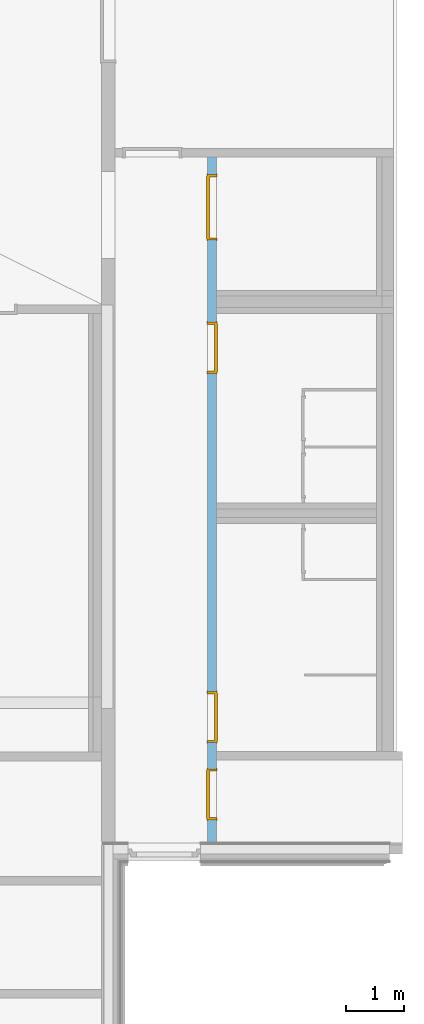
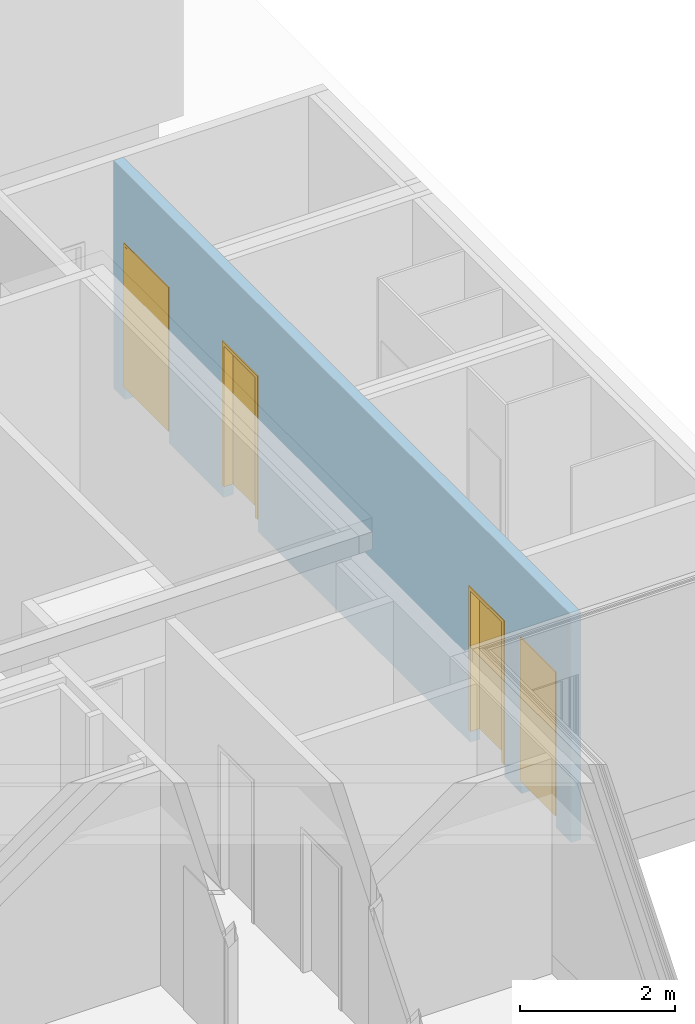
# One storey, part 13 of 23: 4 doors, 4 openings, plus 1 element that does not belong to this part.
"""IFC4 building model written with IfcOpenShell, lengths in metres."""

import ifcopenshell
import ifcopenshell.guid

model = None  # the IFC model being written
_history = None  # IfcOwnerHistory: only IFC2X3 demands one
_inside = {}  # id of a spatial element -> (the spatial element, [elements in it])
_under = {}  # id of a project, library or spatial element -> (it, [spatial elements below it])
_declared = {}  # id of a project -> (the project, [libraries it declares])
_typed = {}  # id of a type object -> (the type object, [elements of that type])
_made_of = {}  # id of a material, layer set ... -> (it, [elements and type objects made of it])


def new_model(schema):
    """Start an empty IFC model of exactly this schema.

    Asked for "IFC4X3", IfcOpenShell would pick the latest addendum, in which some entities
    have other attributes; the version numbers below select the first issue.
    IFC2X3 requires an IfcOwnerHistory on every rooted entity: one is made here for all.
    """
    global model, _history
    if schema == "IFC4X3":
        model = ifcopenshell.file(schema_version=(4, 3, 0, 0))
    else:
        model = ifcopenshell.file(schema=schema)
    _inside.clear()
    _under.clear()
    _declared.clear()
    _typed.clear()
    _made_of.clear()
    _history = None
    if model.schema == "IFC2X3":
        org = make("IfcOrganization", Name="unknown")
        user = make(
            "IfcPersonAndOrganization",
            ThePerson=make("IfcPerson", FamilyName="unknown"),
            TheOrganization=org,
        )
        app = make(
            "IfcApplication",
            ApplicationDeveloper=org,
            Version="unknown",
            ApplicationFullName="unknown",
            ApplicationIdentifier="unknown",
        )
        _history = make(
            "IfcOwnerHistory",
            OwningUser=user,
            OwningApplication=app,
            ChangeAction="ADDED",
            CreationDate=0,
        )
    return model


def make(cls, **values):
    """One entity of the class cls with the attributes given. An attribute that is None is left unset."""
    return model.create_entity(
        cls, **{name: value for name, value in values.items() if value is not None}
    )


def entity(cls, *values):
    """Any entity or typed value of the class cls, its attributes in the order of the schema. None: left unset."""
    e = model.create_entity(cls)
    for i, value in enumerate(values):
        if value is not None:
            e[i] = value
    return e


def rooted(cls, **values):
    """An entity with a GlobalId (a new one), such as an element, a storey or a relation."""
    return make(cls, GlobalId=ifcopenshell.guid.new(), OwnerHistory=_history, **values)


def si_unit(unit_type, name, prefix=None):
    """IfcSIUnit, for example si_unit("LENGTHUNIT", "METRE", prefix="MILLI")."""
    return make("IfcSIUnit", UnitType=unit_type, Prefix=prefix, Name=name)


def converted_unit(unit_type, name, factor, base, dimensions=None, offset=None):
    """IfcConversionBasedUnit, such as the inch: factor (a typed value) times the base unit."""
    return make(
        "IfcConversionBasedUnit"
        if offset is None
        else "IfcConversionBasedUnitWithOffset",
        ConversionOffset=offset,
        Dimensions=None
        if dimensions is None
        else entity("IfcDimensionalExponents", *dimensions),
        UnitType=unit_type,
        Name=name,
        ConversionFactor=make(
            "IfcMeasureWithUnit", ValueComponent=factor, UnitComponent=base
        ),
    )


def derived_unit(unit_type, elements):
    """IfcDerivedUnit: a product of units, each with its exponent."""
    return make(
        "IfcDerivedUnit",
        Elements=[
            make("IfcDerivedUnitElement", Unit=unit, Exponent=power)
            for unit, power in elements
        ],
        UnitType=unit_type,
    )


def assignment(units):
    """IfcUnitAssignment: the units of a project."""
    return None if units is None else make("IfcUnitAssignment", Units=units)


def point(xyz):
    """IfcCartesianPoint."""
    return None if xyz is None else make("IfcCartesianPoint", Coordinates=xyz)


def direction(xyz):
    """IfcDirection."""
    return None if xyz is None else make("IfcDirection", DirectionRatios=xyz)


def frame(location, z_axis=None, x_axis=None):
    """IfcAxis2Placement3D, a coordinate frame: its origin and axes. An axis left out is left unset."""
    return make(
        "IfcAxis2Placement3D",
        Location=point(location),
        Axis=direction(z_axis),
        RefDirection=direction(x_axis),
    )


def frame_2d(location, x_axis=None):
    """IfcAxis2Placement2D, a coordinate frame in the plane: its origin and x axis."""
    return make(
        "IfcAxis2Placement2D", Location=point(location), RefDirection=direction(x_axis)
    )


def origin():
    """The frame at (0, 0, 0) with its axes left unset."""
    return frame((0.0, 0.0, 0.0))


def origin_with_axes():
    """The frame at (0, 0, 0) with the z axis (0, 0, 1) and the x axis (1, 0, 0) written out."""
    return frame((0.0, 0.0, 0.0), z_axis=(0.0, 0.0, 1.0), x_axis=(1.0, 0.0, 0.0))


def place(relative_to, where):
    """IfcLocalPlacement: puts the frame where relative to a parent placement (None: the world)."""
    return make(
        "IfcLocalPlacement", PlacementRelTo=relative_to, RelativePlacement=where
    )


def context(
    kind, dimensions, precision=None, world=None, true_north=None, identifier=None
):
    """IfcGeometricRepresentationContext, for example the 3D "Model" context."""
    return make(
        "IfcGeometricRepresentationContext",
        ContextIdentifier=identifier,
        ContextType=kind,
        CoordinateSpaceDimension=dimensions,
        Precision=precision,
        WorldCoordinateSystem=world,
        TrueNorth=true_north,
    )


def subcontext(parent, identifier, kind, view, scale=None):
    """IfcGeometricRepresentationSubContext, for example "Body" below "Model"."""
    return make(
        "IfcGeometricRepresentationSubContext",
        ContextIdentifier=identifier,
        ContextType=kind,
        ParentContext=parent,
        TargetScale=scale,
        TargetView=view,
    )


def project(units=None, contexts=None):
    """IfcProject with its units and contexts."""
    return rooted(
        "IfcProject",
        Name="project",
        RepresentationContexts=contexts,
        UnitsInContext=assignment(units),
    )


def spatial(cls, under=None, at=None, **own):
    """A site, building, storey or space (cls), placed at a placement, below another one or the project."""
    s = rooted(cls, ObjectPlacement=at, **own)
    if under is not None:
        _under.setdefault(under.id(), (under, []))[1].append(s)
    return s


def polyline(points):
    """IfcPolyline through the points."""
    return make("IfcPolyline", Points=[point(p) for p in points])


def profile(cls, at=None, kind="AREA", **sizes):
    """A parametric profile (cls). Its sizes go by their IFC names, for example OverallWidth=200.0."""
    return make(cls, ProfileType=kind, Position=at, **sizes)


def rectangle(**sizes):
    """IfcRectangleProfileDef."""
    return profile("IfcRectangleProfileDef", **sizes)


def outline(outer, holes=None, kind="AREA"):
    """IfcArbitraryClosedProfileDef: a profile drawn as a closed curve; with holes, ...WithVoids."""
    if holes is None:
        return make("IfcArbitraryClosedProfileDef", ProfileType=kind, OuterCurve=outer)
    return make(
        "IfcArbitraryProfileDefWithVoids",
        ProfileType=kind,
        OuterCurve=outer,
        InnerCurves=holes,
    )


def extrude(swept, where, along, depth):
    """IfcExtrudedAreaSolid: the profile swept, set in the frame where, extruded along a direction by depth."""
    return make(
        "IfcExtrudedAreaSolid",
        SweptArea=swept,
        Position=where,
        ExtrudedDirection=direction(along),
        Depth=depth,
    )


def faces_of(points, faces, orient=None, outer=None):
    """IfcFace entities. A face is a list of loops; a loop is a list of indices into points, from 0.

    orient and outer hold one flag for each loop. By default every Orientation is true, the
    first loop of a face is its IfcFaceOuterBound and the others are IfcFaceBound.
    """
    made = []
    for i, loops in enumerate(faces):
        bounds = []
        for j, loop in enumerate(loops):
            is_outer = j == 0 if outer is None else outer[i][j]
            bounds.append(
                make(
                    "IfcFaceOuterBound" if is_outer else "IfcFaceBound",
                    Bound=make("IfcPolyLoop", Polygon=[points[k] for k in loop]),
                    Orientation=True if orient is None else orient[i][j],
                )
            )
        made.append(make("IfcFace", Bounds=bounds))
    return made


def faceted_brep(points, faces, orient=None, outer=None, voids=None):
    """IfcFacetedBrep: a solid bounded by flat faces; with voids (closed shells), ...WithVoids."""
    shared = [point(p) for p in points]
    hull = make("IfcClosedShell", CfsFaces=faces_of(shared, faces, orient, outer))
    if voids is None:
        return make("IfcFacetedBrep", Outer=hull)
    return make(
        "IfcFacetedBrepWithVoids",
        Outer=hull,
        Voids=[
            make(cls, CfsFaces=faces_of(shared, fs, o, b)) for cls, fs, o, b in voids
        ],
    )


def shape(context_of_items, identifier, shape_type, items):
    """IfcShapeRepresentation: the items that make up one representation, for example the "Body"."""
    return make(
        "IfcShapeRepresentation",
        ContextOfItems=context_of_items,
        RepresentationIdentifier=identifier,
        RepresentationType=shape_type,
        Items=items,
    )


def source(mapping_origin, context_of_items, identifier, shape_type, items):
    """IfcRepresentationMap: a shape defined once, which mapped items show again and again."""
    return make(
        "IfcRepresentationMap",
        MappingOrigin=mapping_origin,
        MappedRepresentation=shape(context_of_items, identifier, shape_type, items),
    )


def transform(
    local_origin,
    x_axis=None,
    y_axis=None,
    z_axis=None,
    scale=None,
    scale2=None,
    scale3=None,
    uniform=True,
):
    """IfcCartesianTransformationOperator3D, or its non-uniform kind. x_axis, y_axis, z_axis: its Axis1, 2, 3."""
    if uniform:
        return make(
            "IfcCartesianTransformationOperator3D",
            Axis1=direction(x_axis),
            Axis2=direction(y_axis),
            LocalOrigin=point(local_origin),
            Scale=scale,
            Axis3=direction(z_axis),
        )
    return make(
        "IfcCartesianTransformationOperator3DnonUniform",
        Axis1=direction(x_axis),
        Axis2=direction(y_axis),
        LocalOrigin=point(local_origin),
        Scale=scale,
        Axis3=direction(z_axis),
        Scale2=scale2,
        Scale3=scale3,
    )


def mapped(mapping_source, mapping_target):
    """IfcMappedItem: shows the shape of a source again, moved by a transform."""
    return make(
        "IfcMappedItem", MappingSource=mapping_source, MappingTarget=mapping_target
    )


def material(Name=None, Category=None):
    """IfcMaterial."""
    return make("IfcMaterial", Name=Name, Category=Category)


def made_of(thing, what):
    """Note that an element or type object is made of a material, layer set ...; save() writes the relation."""
    if what is not None:
        _made_of.setdefault(what.id(), (what, []))[1].append(thing)
    return thing


def type_object(cls, material=None, **own):
    """A type object (cls), such as IfcWallType, which elements share."""
    return made_of(rooted(cls, **own), material)


def element(
    cls,
    number,
    at=None,
    inside=None,
    cuts=None,
    type_object=None,
    material=None,
    context=None,
    identifier="Body",
    shape_type=None,
    held_by="IfcProductDefinitionShape",
    body=None,
    shapes=None,
    **own,
):
    """One element of the class cls, such as IfcWall. Its Tag is "e" and its number.

    at: its placement. inside: the storey or other place that contains it. cuts: it is an
    opening in that element (IfcRelVoidsElement). A single representation is given by context,
    identifier, shape_type and body (its items); several are given by shapes. held_by: the class
    of the entity that holds the representations. save() writes the other relations.
    """
    e = rooted(cls, Tag="e%d" % number, ObjectPlacement=at, **own)
    if body is not None:
        shapes = [shape(context, identifier, shape_type, body)]
    if shapes is not None:
        e.Representation = make(held_by, Representations=shapes)
    if inside is not None:
        _inside.setdefault(inside.id(), (inside, []))[1].append(e)
    if cuts is not None:
        rooted(
            "IfcRelVoidsElement", RelatingBuildingElement=cuts, RelatedOpeningElement=e
        )
    if type_object is not None:
        _typed.setdefault(type_object.id(), (type_object, []))[1].append(e)
    return made_of(e, material)


def fill(opening, filler):
    """IfcRelFillsElement: the door or window that sits in an opening."""
    return rooted(
        "IfcRelFillsElement",
        RelatingOpeningElement=opening,
        RelatedBuildingElement=filler,
    )


def aggregate(whole, parts):
    """IfcRelAggregates: a whole, such as a stair, and the parts it consists of."""
    return rooted("IfcRelAggregates", RelatingObject=whole, RelatedObjects=parts)


def save(model, path):
    """Write the relations noted so far, then the file.

    IfcRelAggregates (storeys below a building ...), IfcRelContainedInSpatialStructure (elements
    in a storey), IfcRelDefinesByType, IfcRelAssociatesMaterial and IfcRelDeclares: one each for
    every whole, place, type object, material and project.
    """
    for whole, parts in _under.values():
        aggregate(whole, parts)
    for where, things in _inside.values():
        rooted(
            "IfcRelContainedInSpatialStructure",
            RelatedElements=things,
            RelatingStructure=where,
        )
    for kind, things in _typed.values():
        rooted("IfcRelDefinesByType", RelatedObjects=things, RelatingType=kind)
    for what, things in _made_of.values():
        rooted("IfcRelAssociatesMaterial", RelatedObjects=things, RelatingMaterial=what)
    for by, libraries in _declared.values():
        rooted("IfcRelDeclares", RelatingContext=by, RelatedDefinitions=libraries)
    model.write(path)


model = new_model("IFC4")

# Units and contexts
model_context = context("Model", 3, precision=1e-05, world=origin())
body_context = subcontext(model_context, "Body", "Model", "MODEL_VIEW")
ifc_project = project(units=[si_unit("LENGTHUNIT", "METRE"), si_unit("AREAUNIT", "SQUARE_METRE"), si_unit("VOLUMEUNIT", "CUBIC_METRE"), si_unit("MASSUNIT", "GRAM", prefix="KILO"), converted_unit("PLANEANGLEUNIT", "DEGREE", entity("IfcPlaneAngleMeasure", 0.0174532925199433), si_unit("PLANEANGLEUNIT", "RADIAN"), dimensions=[0, 0, 0, 0, 0, 0, 0]), derived_unit("THERMALTRANSMITTANCEUNIT", [(si_unit("POWERUNIT", "WATT"), 1), (si_unit("THERMODYNAMICTEMPERATUREUNIT", "KELVIN"), -1), (si_unit("LENGTHUNIT", "METRE"), -2)]), derived_unit("VOLUMETRICFLOWRATEUNIT", [(si_unit("LENGTHUNIT", "METRE"), 3), (converted_unit("TIMEUNIT", "hour", entity("IfcTimeMeasure", 3600.0), si_unit("TIMEUNIT", "SECOND"), dimensions=[0, 0, 1, 0, 0, 0, 0]), -1), (si_unit("LENGTHUNIT", "METRE"), -1)])], contexts=[model_context])

# Site, building, storey
site_placement = place(None, origin())
site = spatial("IfcSite", under=ifc_project, at=site_placement, Name="Psychiatrie Neubau Wunstorf", CompositionType="ELEMENT")
building_placement = place(site_placement, origin())
building = spatial("IfcBuilding", under=site, at=building_placement, Name="Neubau H1 Sozialzentrum", CompositionType="ELEMENT")
storey_placement = place(building_placement, frame((0.0, 0.0, 0.7)))
storey = spatial("IfcBuildingStorey", under=building, at=storey_placement, Name="H1 Ebene 0", CompositionType="ELEMENT", Elevation=0.7)

# Wall, openings, doors
ifc_material_1 = material(Name="WI-IW")
wall_placement = place(storey_placement, frame((-3.33450147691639, 23.8382445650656, -0.2), z_axis=(0.0, 0.0, 1.0), x_axis=(6.90988818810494e-16, -1.0, 0.0)))
wall = element("IfcWall", 1, at=wall_placement, inside=storey, material=ifc_material_1, context=body_context, shape_type="SweptSolid", body=[
    extrude(rectangle(XDim=11.8459982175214, YDim=0.15, at=frame_2d((5.92299910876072, 0.0749999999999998), x_axis=(1.0, 0.0))), origin_with_axes(), (0.0, 0.0, 1.0), 3.6),
])
opening_1_placement = place(wall_placement, frame((0.299999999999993, 0.0, 0.0), z_axis=(7.5791225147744e-16, 1.0, 0.0), x_axis=(0.0, 0.0, 1.0)))
opening_1 = element("IfcOpeningElement", 2, at=opening_1_placement, cuts=wall, Name="Türöffnung", ObjectType="Opening", context=body_context, shape_type="SweptSolid", body=[
    extrude(outline(polyline([(2.46, 1.135), (2.46, 0.0), (0.0, 0.0), (0.0, 1.135), (2.46, 1.135)])), origin_with_axes(), (0.0, 0.0, 1.0), 0.15),
])
opening_2_placement = place(wall_placement, frame((3.73499824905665, 0.15, 0.0), z_axis=(0.0, -1.0, 0.0), x_axis=(0.0, 0.0, 1.0)))
opening_2 = element("IfcOpeningElement", 3, at=opening_2_placement, cuts=wall, Name="Türöffnung", ObjectType="Opening", context=body_context, shape_type="SweptSolid", body=[
    extrude(outline(polyline([(2.46, 0.885), (2.46, 0.0), (0.0, 0.0), (0.0, 0.885), (2.46, 0.885)])), origin_with_axes(), (0.0, 0.0, 1.0), 0.15),
])
opening_3_placement = place(wall_placement, frame((9.23099824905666, 0.0, 0.0), z_axis=(0.0, 1.0, 0.0), x_axis=(0.0, 0.0, 1.0)))
opening_3 = element("IfcOpeningElement", 4, at=opening_3_placement, cuts=wall, Name="Türöffnung", ObjectType="Opening", context=body_context, shape_type="SweptSolid", body=[
    extrude(outline(polyline([(2.46, 0.885), (2.46, 0.0), (0.0, 0.0), (0.0, 0.885), (2.46, 0.885)])), origin_with_axes(), (0.0, 0.0, 1.0), 0.15),
])
opening_4_placement = place(wall_placement, frame((10.5659982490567, 0.0, 0.0), z_axis=(0.0, 1.0, 0.0), x_axis=(0.0, 0.0, 1.0)))
opening_4 = element("IfcOpeningElement", 5, at=opening_4_placement, cuts=wall, Name="Türöffnung", ObjectType="Opening", context=body_context, shape_type="SweptSolid", body=[
    extrude(outline(polyline([(2.46, 0.885), (2.46, 0.0), (0.0, 0.0), (0.0, 0.885), (2.46, 0.885)])), origin_with_axes(), (0.0, 0.0, 1.0), 0.15),
])
ifc_material_2 = material(Name="TI-1F-UZ-ZK")
door_type_1 = type_object("IfcDoorType", Name="SMT", OperationType="SINGLE_SWING_RIGHT", ParameterTakesPrecedence=False, PredefinedType="DOOR")
shared_shape_1 = source(origin_with_axes(), body_context, "Body", "Brep", [
    faceted_brep([(1.13499999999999, -0.0150000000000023, 2.46), (1.13499999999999, -0.0150000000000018, 0.2), (1.09499999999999, -0.0150000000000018, 0.2), (1.09499999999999, -0.0150000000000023, 2.46), (1.13499999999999, 0.164999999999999, 0.2), (1.13499999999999, 0.164999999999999, 2.46), (1.09499999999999, 0.164999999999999, 2.46), (1.09499999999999, 0.164999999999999, 0.2)], [[[0, 1, 2, 3]], [[4, 5, 6, 7]], [[1, 0, 5, 4]], [[2, 1, 4, 7]], [[3, 2, 7, 6]], [[0, 3, 6, 5]]], orient=[[False], [False], [False], [False], [False], [False]]),
    faceted_brep([(1.13499999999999, -0.0150000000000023, 2.475), (1.14999999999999, -0.0150000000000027, 2.475), (1.14999999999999, -0.0150000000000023, 0.2), (1.13499999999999, -0.0150000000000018, 0.2), (1.13499999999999, 0.0, 0.2), (1.14999999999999, 0.0, 0.2), (1.14999999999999, 0.0, 2.475), (1.13499999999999, 0.0, 2.475)], [[[0, 1, 2, 3]], [[4, 5, 6, 7]], [[3, 4, 7, 0]], [[2, 5, 4, 3]], [[1, 6, 5, 2]], [[0, 7, 6, 1]]], orient=[[False], [False], [False], [False], [False], [False]]),
    faceted_brep([(1.13499999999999, 0.149999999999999, 2.475), (1.14999999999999, 0.149999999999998, 2.475), (1.14999999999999, 0.149999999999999, 0.2), (1.13499999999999, 0.149999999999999, 0.2), (1.13499999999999, 0.164999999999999, 0.2), (1.14999999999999, 0.164999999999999, 0.2), (1.14999999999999, 0.164999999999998, 2.475), (1.13499999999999, 0.164999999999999, 2.475)], [[[0, 1, 2, 3]], [[4, 5, 6, 7]], [[3, 4, 7, 0]], [[2, 5, 4, 3]], [[1, 6, 5, 2]], [[0, 7, 6, 1]]], orient=[[False], [False], [False], [False], [False], [False]]),
    faceted_brep([(0.0399999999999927, -0.0150000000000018, 2.46), (0.0399999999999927, -0.0150000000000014, 0.2), (0.0, -0.0150000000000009, 0.2), (0.0, -0.0150000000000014, 2.46), (0.0399999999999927, 0.165, 0.2), (0.0399999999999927, 0.164999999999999, 2.46), (0.0, 0.165, 2.46), (0.0, 0.165, 0.2)], [[[0, 1, 2, 3]], [[4, 5, 6, 7]], [[1, 0, 5, 4]], [[2, 1, 4, 7]], [[3, 2, 7, 6]], [[0, 3, 6, 5]]], orient=[[False], [False], [False], [False], [False], [False]]),
    faceted_brep([(0.0, -0.0150000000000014, 2.475), (0.0, -0.0150000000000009, 0.2), (-0.0150000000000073, -0.0150000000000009, 0.2), (-0.0150000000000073, -0.0150000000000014, 2.475), (0.0, 0.0, 0.2), (0.0, 0.0, 2.475), (-0.0150000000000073, 0.0, 2.475), (-0.0150000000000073, 0.0, 0.2)], [[[0, 1, 2, 3]], [[4, 5, 6, 7]], [[1, 0, 5, 4]], [[2, 1, 4, 7]], [[3, 2, 7, 6]], [[0, 3, 6, 5]]], orient=[[False], [False], [False], [False], [False], [False]]),
    faceted_brep([(0.0, 0.15, 2.475), (0.0, 0.15, 0.2), (-0.0150000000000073, 0.15, 0.2), (-0.0150000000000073, 0.15, 2.475), (0.0, 0.165, 0.2), (0.0, 0.165, 2.475), (-0.0150000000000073, 0.165, 2.475), (-0.0150000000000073, 0.165, 0.2)], [[[0, 1, 2, 3]], [[4, 5, 6, 7]], [[1, 0, 5, 4]], [[2, 1, 4, 7]], [[3, 2, 7, 6]], [[0, 3, 6, 5]]], orient=[[False], [False], [False], [False], [False], [False]]),
    faceted_brep([(1.09499999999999, -0.0150000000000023, 2.46), (1.09499999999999, -0.0150000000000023, 2.42), (0.0399999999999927, -0.0150000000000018, 2.42), (0.0399999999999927, -0.0150000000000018, 2.46), (1.09499999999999, 0.164999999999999, 2.42), (1.09499999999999, 0.164999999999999, 2.46), (0.0399999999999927, 0.164999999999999, 2.46), (0.0399999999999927, 0.164999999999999, 2.42)], [[[0, 1, 2, 3]], [[4, 5, 6, 7]], [[1, 0, 5, 4]], [[2, 1, 4, 7]], [[3, 2, 7, 6]], [[0, 3, 6, 5]]], orient=[[False], [False], [False], [False], [False], [False]]),
    faceted_brep([(1.13499999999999, -0.0150000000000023, 2.475), (1.13499999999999, -0.0150000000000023, 2.46), (0.0, -0.0150000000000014, 2.46), (0.0, -0.0150000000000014, 2.475), (1.13499999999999, 0.0, 2.46), (1.13499999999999, 0.0, 2.475), (0.0, 0.0, 2.475), (0.0, 0.0, 2.46)], [[[0, 1, 2, 3]], [[4, 5, 6, 7]], [[1, 0, 5, 4]], [[2, 1, 4, 7]], [[3, 2, 7, 6]], [[0, 3, 6, 5]]], orient=[[False], [False], [False], [False], [False], [False]]),
    faceted_brep([(1.13499999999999, 0.149999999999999, 2.475), (1.13499999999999, 0.149999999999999, 2.46), (0.0, 0.15, 2.46), (0.0, 0.15, 2.475), (1.13499999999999, 0.164999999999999, 2.46), (1.13499999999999, 0.164999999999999, 2.475), (0.0, 0.165, 2.475), (0.0, 0.165, 2.46)], [[[0, 1, 2, 3]], [[4, 5, 6, 7]], [[1, 0, 5, 4]], [[2, 1, 4, 7]], [[3, 2, 7, 6]], [[0, 3, 6, 5]]], orient=[[False], [False], [False], [False], [False], [False]]),
    faceted_brep([(1.10999999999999, 0.115999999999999, 2.435), (1.10999999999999, 0.115999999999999, 0.2), (0.0249999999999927, 0.115999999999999, 0.2), (0.0249999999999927, 0.115999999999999, 2.435), (1.10999999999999, 0.165999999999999, 0.2), (1.10999999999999, 0.165999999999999, 2.435), (0.0249999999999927, 0.165999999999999, 2.435), (0.0249999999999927, 0.166, 0.2)], [[[0, 1, 2, 3]], [[4, 5, 6, 7]], [[1, 0, 5, 4]], [[2, 1, 4, 7]], [[3, 2, 7, 6]], [[0, 3, 6, 5]]], orient=[[False], [False], [False], [False], [False], [False]]),
])
door_1_placement = place(opening_1_placement, frame((0.0, 1.135, 0.150000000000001), z_axis=(1.0, 0.0, 0.0), x_axis=(0.0, -1.0, -8.68240350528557e-16)))
door_1 = element("IfcDoor", 6, at=door_1_placement, inside=storey, type_object=door_type_1, material=ifc_material_2, Name="SMT", OverallHeight=2.46, OverallWidth=1.135, context=body_context, shape_type="MappedRepresentation", body=[
    mapped(shared_shape_1, transform((0.0, 0.0, 0.0), x_axis=(1.0, 0.0, 0.0), y_axis=(0.0, 1.0, 0.0), z_axis=(0.0, 0.0, 1.0), scale=1.0)),
])
fill(opening_1, door_1)
ifc_material_3 = material(Name="TI-1F-UZ-ZK")
door_type_2 = type_object("IfcDoorType", Name="SMT", OperationType="SINGLE_SWING_RIGHT", ParameterTakesPrecedence=False, PredefinedType="DOOR")
shared_shape_2 = source(origin_with_axes(), body_context, "Body", "Brep", [
    faceted_brep([(0.0, -0.0149999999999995, 2.46), (0.0400000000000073, -0.0149999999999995, 2.46), (0.0400000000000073, -0.0149999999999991, 0.2), (0.0, -0.0149999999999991, 0.2), (0.0, 0.165000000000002, 0.2), (0.0400000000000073, 0.165000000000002, 0.2), (0.0400000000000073, 0.165000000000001, 2.46), (0.0, 0.165000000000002, 2.46)], [[[0, 1, 2, 3]], [[4, 5, 6, 7]], [[3, 4, 7, 0]], [[2, 5, 4, 3]], [[1, 6, 5, 2]], [[0, 7, 6, 1]]], orient=[[False], [False], [False], [False], [False], [False]]),
    faceted_brep([(0.0, -0.0149999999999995, 2.475), (0.0, -0.0149999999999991, 0.2), (-0.0149999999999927, -0.0149999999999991, 0.2), (-0.0149999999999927, -0.0149999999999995, 2.475), (0.0, 0.0, 0.2), (0.0, 0.0, 2.475), (-0.0149999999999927, 0.0, 2.475), (-0.0149999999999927, 0.0, 0.2)], [[[0, 1, 2, 3]], [[4, 5, 6, 7]], [[1, 0, 5, 4]], [[2, 1, 4, 7]], [[3, 2, 7, 6]], [[0, 3, 6, 5]]], orient=[[False], [False], [False], [False], [False], [False]]),
    faceted_brep([(0.0, 0.150000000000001, 2.475), (0.0, 0.150000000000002, 0.2), (-0.0149999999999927, 0.150000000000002, 0.2), (-0.0149999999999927, 0.150000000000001, 2.475), (0.0, 0.165000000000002, 0.2), (0.0, 0.165000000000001, 2.475), (-0.0149999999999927, 0.165000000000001, 2.475), (-0.0149999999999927, 0.165000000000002, 0.2)], [[[0, 1, 2, 3]], [[4, 5, 6, 7]], [[1, 0, 5, 4]], [[2, 1, 4, 7]], [[3, 2, 7, 6]], [[0, 3, 6, 5]]], orient=[[False], [False], [False], [False], [False], [False]]),
    faceted_brep([(0.845000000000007, -0.015, 2.46), (0.885000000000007, -0.015, 2.46), (0.885000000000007, -0.0149999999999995, 0.2), (0.845000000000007, -0.0149999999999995, 0.2), (0.845000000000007, 0.165000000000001, 0.2), (0.885000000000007, 0.165000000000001, 0.2), (0.885000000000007, 0.165000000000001, 2.46), (0.845000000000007, 0.165000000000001, 2.46)], [[[0, 1, 2, 3]], [[4, 5, 6, 7]], [[3, 4, 7, 0]], [[2, 5, 4, 3]], [[1, 6, 5, 2]], [[0, 7, 6, 1]]], orient=[[False], [False], [False], [False], [False], [False]]),
    faceted_brep([(0.885000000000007, -0.015, 2.475), (0.900000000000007, -0.015, 2.475), (0.900000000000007, -0.0149999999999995, 0.2), (0.885000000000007, -0.0149999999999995, 0.2), (0.885000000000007, 0.0, 0.2), (0.900000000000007, 0.0, 0.2), (0.900000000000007, 0.0, 2.475), (0.885000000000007, 0.0, 2.475)], [[[0, 1, 2, 3]], [[4, 5, 6, 7]], [[3, 4, 7, 0]], [[2, 5, 4, 3]], [[1, 6, 5, 2]], [[0, 7, 6, 1]]], orient=[[False], [False], [False], [False], [False], [False]]),
    faceted_brep([(0.885000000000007, 0.150000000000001, 2.475), (0.900000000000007, 0.150000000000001, 2.475), (0.900000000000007, 0.150000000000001, 0.2), (0.885000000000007, 0.150000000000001, 0.2), (0.885000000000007, 0.165000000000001, 0.2), (0.900000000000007, 0.165000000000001, 0.2), (0.900000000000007, 0.165000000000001, 2.475), (0.885000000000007, 0.165000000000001, 2.475)], [[[0, 1, 2, 3]], [[4, 5, 6, 7]], [[3, 4, 7, 0]], [[2, 5, 4, 3]], [[1, 6, 5, 2]], [[0, 7, 6, 1]]], orient=[[False], [False], [False], [False], [False], [False]]),
    faceted_brep([(0.0400000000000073, -0.0149999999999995, 2.46), (0.845000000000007, -0.015, 2.46), (0.845000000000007, -0.015, 2.42), (0.0400000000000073, -0.0149999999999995, 2.42), (0.0400000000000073, 0.165000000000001, 2.42), (0.845000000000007, 0.165000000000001, 2.42), (0.845000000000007, 0.165000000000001, 2.46), (0.0400000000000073, 0.165000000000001, 2.46)], [[[0, 1, 2, 3]], [[4, 5, 6, 7]], [[3, 4, 7, 0]], [[2, 5, 4, 3]], [[1, 6, 5, 2]], [[0, 7, 6, 1]]], orient=[[False], [False], [False], [False], [False], [False]]),
    faceted_brep([(0.0, -0.0149999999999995, 2.475), (0.885000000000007, -0.015, 2.475), (0.885000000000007, -0.015, 2.46), (0.0, -0.0149999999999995, 2.46), (0.0, 0.0, 2.46), (0.885000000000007, 0.0, 2.46), (0.885000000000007, 0.0, 2.475), (0.0, 0.0, 2.475)], [[[0, 1, 2, 3]], [[4, 5, 6, 7]], [[3, 4, 7, 0]], [[2, 5, 4, 3]], [[1, 6, 5, 2]], [[0, 7, 6, 1]]], orient=[[False], [False], [False], [False], [False], [False]]),
    faceted_brep([(0.0, 0.150000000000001, 2.475), (0.885000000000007, 0.150000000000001, 2.475), (0.885000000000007, 0.150000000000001, 2.46), (0.0, 0.150000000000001, 2.46), (0.0, 0.165000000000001, 2.46), (0.885000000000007, 0.165000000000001, 2.46), (0.885000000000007, 0.165000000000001, 2.475), (0.0, 0.165000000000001, 2.475)], [[[0, 1, 2, 3]], [[4, 5, 6, 7]], [[3, 4, 7, 0]], [[2, 5, 4, 3]], [[1, 6, 5, 2]], [[0, 7, 6, 1]]], orient=[[False], [False], [False], [False], [False], [False]]),
    faceted_brep([(0.0250000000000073, 0.116000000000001, 2.435), (0.860000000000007, 0.116000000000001, 2.435), (0.860000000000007, 0.116000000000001, 0.2), (0.0250000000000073, 0.116000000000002, 0.2), (0.0250000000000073, 0.166000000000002, 0.2), (0.860000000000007, 0.166000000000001, 0.2), (0.860000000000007, 0.166000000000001, 2.435), (0.0250000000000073, 0.166000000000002, 2.435)], [[[0, 1, 2, 3]], [[4, 5, 6, 7]], [[3, 4, 7, 0]], [[2, 5, 4, 3]], [[1, 6, 5, 2]], [[0, 7, 6, 1]]], orient=[[False], [False], [False], [False], [False], [False]]),
])
door_2_placement = place(opening_2_placement, frame((0.0, 0.885, 0.15), z_axis=(1.0, 0.0, 0.0), x_axis=(0.0, -1.0, 1.77150004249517e-16)))
door_2 = element("IfcDoor", 7, at=door_2_placement, inside=storey, type_object=door_type_2, material=ifc_material_3, Name="SMT", OverallHeight=2.46, OverallWidth=0.885, context=body_context, shape_type="MappedRepresentation", body=[
    mapped(shared_shape_2, transform((0.0, 0.0, 0.0), x_axis=(1.0, 0.0, 0.0), y_axis=(0.0, 1.0, 0.0), z_axis=(0.0, 0.0, 1.0), scale=1.0)),
])
fill(opening_2, door_2)
ifc_material_4 = material(Name="TI-1F-UZ-ZK")
door_type_3 = type_object("IfcDoorType", Name="SMT", OperationType="SINGLE_SWING_RIGHT", ParameterTakesPrecedence=False, PredefinedType="DOOR")
shared_shape_3 = source(origin_with_axes(), body_context, "Body", "Brep", [
    faceted_brep([(0.885000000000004, -0.015, 2.46), (0.885000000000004, -0.0149999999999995, 0.2), (0.845000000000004, -0.0149999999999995, 0.2), (0.845000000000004, -0.015, 2.46), (0.885000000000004, 0.165, 0.2), (0.885000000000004, 0.165, 2.46), (0.845000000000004, 0.165, 2.46), (0.845000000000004, 0.165, 0.2)], [[[0, 1, 2, 3]], [[4, 5, 6, 7]], [[1, 0, 5, 4]], [[2, 1, 4, 7]], [[3, 2, 7, 6]], [[0, 3, 6, 5]]], orient=[[False], [False], [False], [False], [False], [False]]),
    faceted_brep([(0.885000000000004, -0.015, 2.475), (0.900000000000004, -0.0150000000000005, 2.475), (0.900000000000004, -0.015, 0.2), (0.885000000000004, -0.0149999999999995, 0.2), (0.885000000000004, 0.0, 0.2), (0.900000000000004, 0.0, 0.2), (0.900000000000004, 0.0, 2.475), (0.885000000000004, 0.0, 2.475)], [[[0, 1, 2, 3]], [[4, 5, 6, 7]], [[3, 4, 7, 0]], [[2, 5, 4, 3]], [[1, 6, 5, 2]], [[0, 7, 6, 1]]], orient=[[False], [False], [False], [False], [False], [False]]),
    faceted_brep([(0.885000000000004, 0.15, 2.475), (0.900000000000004, 0.15, 2.475), (0.900000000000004, 0.15, 0.2), (0.885000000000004, 0.15, 0.2), (0.885000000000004, 0.165, 0.2), (0.900000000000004, 0.165, 0.2), (0.900000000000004, 0.165, 2.475), (0.885000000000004, 0.165, 2.475)], [[[0, 1, 2, 3]], [[4, 5, 6, 7]], [[3, 4, 7, 0]], [[2, 5, 4, 3]], [[1, 6, 5, 2]], [[0, 7, 6, 1]]], orient=[[False], [False], [False], [False], [False], [False]]),
    faceted_brep([(0.0400000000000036, -0.0149999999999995, 2.46), (0.0400000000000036, -0.0149999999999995, 0.2), (0.0, -0.0149999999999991, 0.2), (0.0, -0.0149999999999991, 2.46), (0.0400000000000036, 0.165, 0.2), (0.0400000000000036, 0.165, 2.46), (0.0, 0.165000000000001, 2.46), (0.0, 0.165000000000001, 0.2)], [[[0, 1, 2, 3]], [[4, 5, 6, 7]], [[1, 0, 5, 4]], [[2, 1, 4, 7]], [[3, 2, 7, 6]], [[0, 3, 6, 5]]], orient=[[False], [False], [False], [False], [False], [False]]),
    faceted_brep([(0.0, -0.0149999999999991, 2.475), (0.0, -0.0149999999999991, 0.2), (-0.0149999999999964, -0.0149999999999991, 0.2), (-0.0149999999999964, -0.0149999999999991, 2.475), (0.0, 0.0, 0.2), (0.0, 0.0, 2.475), (-0.0149999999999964, 0.0, 2.475), (-0.0149999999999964, 0.0, 0.2)], [[[0, 1, 2, 3]], [[4, 5, 6, 7]], [[1, 0, 5, 4]], [[2, 1, 4, 7]], [[3, 2, 7, 6]], [[0, 3, 6, 5]]], orient=[[False], [False], [False], [False], [False], [False]]),
    faceted_brep([(0.0, 0.150000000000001, 2.475), (0.0, 0.150000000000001, 0.2), (-0.0149999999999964, 0.150000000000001, 0.2), (-0.0149999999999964, 0.150000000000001, 2.475), (0.0, 0.165000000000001, 0.2), (0.0, 0.165, 2.475), (-0.0149999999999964, 0.165, 2.475), (-0.0149999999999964, 0.165000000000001, 0.2)], [[[0, 1, 2, 3]], [[4, 5, 6, 7]], [[1, 0, 5, 4]], [[2, 1, 4, 7]], [[3, 2, 7, 6]], [[0, 3, 6, 5]]], orient=[[False], [False], [False], [False], [False], [False]]),
    faceted_brep([(0.845000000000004, -0.015, 2.46), (0.845000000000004, -0.015, 2.42), (0.0400000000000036, -0.0149999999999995, 2.42), (0.0400000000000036, -0.0149999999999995, 2.46), (0.845000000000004, 0.165, 2.42), (0.845000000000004, 0.165, 2.46), (0.0400000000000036, 0.165, 2.46), (0.0400000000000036, 0.165, 2.42)], [[[0, 1, 2, 3]], [[4, 5, 6, 7]], [[1, 0, 5, 4]], [[2, 1, 4, 7]], [[3, 2, 7, 6]], [[0, 3, 6, 5]]], orient=[[False], [False], [False], [False], [False], [False]]),
    faceted_brep([(0.885000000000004, -0.015, 2.475), (0.885000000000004, -0.015, 2.46), (0.0, -0.0149999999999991, 2.46), (0.0, -0.0149999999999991, 2.475), (0.885000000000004, 0.0, 2.46), (0.885000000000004, 0.0, 2.475), (0.0, 0.0, 2.475), (0.0, 0.0, 2.46)], [[[0, 1, 2, 3]], [[4, 5, 6, 7]], [[1, 0, 5, 4]], [[2, 1, 4, 7]], [[3, 2, 7, 6]], [[0, 3, 6, 5]]], orient=[[False], [False], [False], [False], [False], [False]]),
    faceted_brep([(0.885000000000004, 0.15, 2.475), (0.885000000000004, 0.15, 2.46), (0.0, 0.15, 2.46), (0.0, 0.15, 2.475), (0.885000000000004, 0.165, 2.46), (0.885000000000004, 0.165, 2.475), (0.0, 0.165, 2.475), (0.0, 0.165, 2.46)], [[[0, 1, 2, 3]], [[4, 5, 6, 7]], [[1, 0, 5, 4]], [[2, 1, 4, 7]], [[3, 2, 7, 6]], [[0, 3, 6, 5]]], orient=[[False], [False], [False], [False], [False], [False]]),
    faceted_brep([(0.860000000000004, 0.116, 2.435), (0.860000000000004, 0.116, 0.2), (0.0250000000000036, 0.116, 0.2), (0.0250000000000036, 0.116, 2.435), (0.860000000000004, 0.166, 0.2), (0.860000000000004, 0.166, 2.435), (0.0250000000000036, 0.166, 2.435), (0.0250000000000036, 0.166, 0.2)], [[[0, 1, 2, 3]], [[4, 5, 6, 7]], [[1, 0, 5, 4]], [[2, 1, 4, 7]], [[3, 2, 7, 6]], [[0, 3, 6, 5]]], orient=[[False], [False], [False], [False], [False], [False]]),
])
door_3_placement = place(opening_3_placement, frame((0.0, 0.0, 0.0), z_axis=(1.0, 0.0, 0.0), x_axis=(0.0, 1.0, -1.77150004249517e-16)))
door_3 = element("IfcDoor", 8, at=door_3_placement, inside=storey, type_object=door_type_3, material=ifc_material_4, Name="SMT", OverallHeight=2.46, OverallWidth=0.885, context=body_context, shape_type="MappedRepresentation", body=[
    mapped(shared_shape_3, transform((0.0, 0.0, 0.0), x_axis=(1.0, 0.0, 0.0), y_axis=(0.0, 1.0, 0.0), z_axis=(0.0, 0.0, 1.0), scale=1.0)),
])
fill(opening_3, door_3)
ifc_material_5 = material(Name="TI-1F-UZ-ZK")
door_type_4 = type_object("IfcDoorType", Name="SMT", OperationType="SINGLE_SWING_RIGHT", ParameterTakesPrecedence=False, PredefinedType="DOOR")
shared_shape_4 = source(origin_with_axes(), body_context, "Body", "Brep", [
    faceted_brep([(0.884999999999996, -0.0150000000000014, 2.46), (0.884999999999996, -0.0150000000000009, 0.2), (0.844999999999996, -0.0150000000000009, 0.2), (0.844999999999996, -0.0150000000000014, 2.46), (0.884999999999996, 0.164999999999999, 0.2), (0.884999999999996, 0.164999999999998, 2.46), (0.844999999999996, 0.164999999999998, 2.46), (0.844999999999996, 0.164999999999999, 0.2)], [[[0, 1, 2, 3]], [[4, 5, 6, 7]], [[1, 0, 5, 4]], [[2, 1, 4, 7]], [[3, 2, 7, 6]], [[0, 3, 6, 5]]], orient=[[False], [False], [False], [False], [False], [False]]),
    faceted_brep([(0.884999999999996, -0.0150000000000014, 2.475), (0.899999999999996, -0.0150000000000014, 2.475), (0.899999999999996, -0.0150000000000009, 0.2), (0.884999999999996, -0.0150000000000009, 0.2), (0.884999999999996, 0.0, 0.2), (0.899999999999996, 0.0, 0.2), (0.899999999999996, 0.0, 2.475), (0.884999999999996, 0.0, 2.475)], [[[0, 1, 2, 3]], [[4, 5, 6, 7]], [[3, 4, 7, 0]], [[2, 5, 4, 3]], [[1, 6, 5, 2]], [[0, 7, 6, 1]]], orient=[[False], [False], [False], [False], [False], [False]]),
    faceted_brep([(0.884999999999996, 0.149999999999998, 2.475), (0.899999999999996, 0.149999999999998, 2.475), (0.899999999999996, 0.149999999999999, 0.2), (0.884999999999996, 0.149999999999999, 0.2), (0.884999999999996, 0.164999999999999, 0.2), (0.899999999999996, 0.164999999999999, 0.2), (0.899999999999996, 0.164999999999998, 2.475), (0.884999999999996, 0.164999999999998, 2.475)], [[[0, 1, 2, 3]], [[4, 5, 6, 7]], [[3, 4, 7, 0]], [[2, 5, 4, 3]], [[1, 6, 5, 2]], [[0, 7, 6, 1]]], orient=[[False], [False], [False], [False], [False], [False]]),
    faceted_brep([(0.0399999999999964, -0.0150000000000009, 2.46), (0.0399999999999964, -0.0150000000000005, 0.2), (0.0, -0.0150000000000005, 0.2), (0.0, -0.0150000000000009, 2.46), (0.0399999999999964, 0.164999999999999, 0.2), (0.0399999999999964, 0.164999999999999, 2.46), (0.0, 0.164999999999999, 2.46), (0.0, 0.164999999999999, 0.2)], [[[0, 1, 2, 3]], [[4, 5, 6, 7]], [[1, 0, 5, 4]], [[2, 1, 4, 7]], [[3, 2, 7, 6]], [[0, 3, 6, 5]]], orient=[[False], [False], [False], [False], [False], [False]]),
    faceted_brep([(0.0, -0.0150000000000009, 2.475), (0.0, -0.0150000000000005, 0.2), (-0.0150000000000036, -0.0150000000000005, 0.2), (-0.0150000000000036, -0.0150000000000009, 2.475), (0.0, 0.0, 0.2), (0.0, 0.0, 2.475), (-0.0150000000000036, 0.0, 2.475), (-0.0150000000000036, 0.0, 0.2)], [[[0, 1, 2, 3]], [[4, 5, 6, 7]], [[1, 0, 5, 4]], [[2, 1, 4, 7]], [[3, 2, 7, 6]], [[0, 3, 6, 5]]], orient=[[False], [False], [False], [False], [False], [False]]),
    faceted_brep([(0.0, 0.149999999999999, 2.475), (0.0, 0.149999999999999, 0.2), (-0.0150000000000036, 0.149999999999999, 0.2), (-0.0150000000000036, 0.149999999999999, 2.475), (0.0, 0.164999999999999, 0.2), (0.0, 0.164999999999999, 2.475), (-0.0150000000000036, 0.164999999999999, 2.475), (-0.0150000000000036, 0.164999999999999, 0.2)], [[[0, 1, 2, 3]], [[4, 5, 6, 7]], [[1, 0, 5, 4]], [[2, 1, 4, 7]], [[3, 2, 7, 6]], [[0, 3, 6, 5]]], orient=[[False], [False], [False], [False], [False], [False]]),
    faceted_brep([(0.844999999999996, -0.0150000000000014, 2.46), (0.844999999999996, -0.0150000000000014, 2.42), (0.0399999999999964, -0.0150000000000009, 2.42), (0.0399999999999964, -0.0150000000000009, 2.46), (0.844999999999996, 0.164999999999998, 2.42), (0.844999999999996, 0.164999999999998, 2.46), (0.0399999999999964, 0.164999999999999, 2.46), (0.0399999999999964, 0.164999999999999, 2.42)], [[[0, 1, 2, 3]], [[4, 5, 6, 7]], [[1, 0, 5, 4]], [[2, 1, 4, 7]], [[3, 2, 7, 6]], [[0, 3, 6, 5]]], orient=[[False], [False], [False], [False], [False], [False]]),
    faceted_brep([(0.884999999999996, -0.0150000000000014, 2.475), (0.884999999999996, -0.0150000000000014, 2.46), (0.0, -0.0150000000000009, 2.46), (0.0, -0.0150000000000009, 2.475), (0.884999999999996, 0.0, 2.46), (0.884999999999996, 0.0, 2.475), (0.0, 0.0, 2.475), (0.0, 0.0, 2.46)], [[[0, 1, 2, 3]], [[4, 5, 6, 7]], [[1, 0, 5, 4]], [[2, 1, 4, 7]], [[3, 2, 7, 6]], [[0, 3, 6, 5]]], orient=[[False], [False], [False], [False], [False], [False]]),
    faceted_brep([(0.884999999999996, 0.149999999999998, 2.475), (0.884999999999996, 0.149999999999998, 2.46), (0.0, 0.149999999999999, 2.46), (0.0, 0.149999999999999, 2.475), (0.884999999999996, 0.164999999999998, 2.46), (0.884999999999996, 0.164999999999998, 2.475), (0.0, 0.164999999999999, 2.475), (0.0, 0.164999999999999, 2.46)], [[[0, 1, 2, 3]], [[4, 5, 6, 7]], [[1, 0, 5, 4]], [[2, 1, 4, 7]], [[3, 2, 7, 6]], [[0, 3, 6, 5]]], orient=[[False], [False], [False], [False], [False], [False]]),
    faceted_brep([(0.859999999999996, 0.115999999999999, 2.435), (0.859999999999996, 0.115999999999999, 0.2), (0.0249999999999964, 0.115999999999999, 0.2), (0.0249999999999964, 0.115999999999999, 2.435), (0.859999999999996, 0.165999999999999, 0.2), (0.859999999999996, 0.165999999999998, 2.435), (0.0249999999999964, 0.165999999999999, 2.435), (0.0249999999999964, 0.165999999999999, 0.2)], [[[0, 1, 2, 3]], [[4, 5, 6, 7]], [[1, 0, 5, 4]], [[2, 1, 4, 7]], [[3, 2, 7, 6]], [[0, 3, 6, 5]]], orient=[[False], [False], [False], [False], [False], [False]]),
])
door_4_placement = place(opening_4_placement, frame((0.0, 0.885, 0.15), z_axis=(1.0, 0.0, 0.0), x_axis=(0.0, -1.0, 1.77150004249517e-16)))
door_4 = element("IfcDoor", 9, at=door_4_placement, inside=storey, type_object=door_type_4, material=ifc_material_5, Name="SMT", OverallHeight=2.46, OverallWidth=0.885, context=body_context, shape_type="MappedRepresentation", body=[
    mapped(shared_shape_4, transform((0.0, 0.0, 0.0), x_axis=(1.0, 0.0, 0.0), y_axis=(0.0, 1.0, 0.0), z_axis=(0.0, 0.0, 1.0), scale=1.0)),
])
fill(opening_4, door_4)

save(model, "model.ifc")
